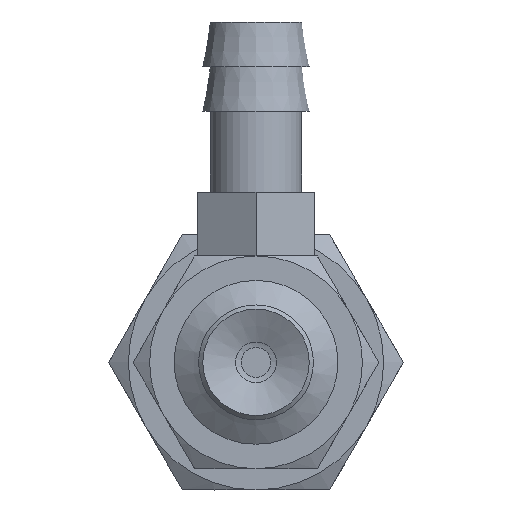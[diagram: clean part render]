
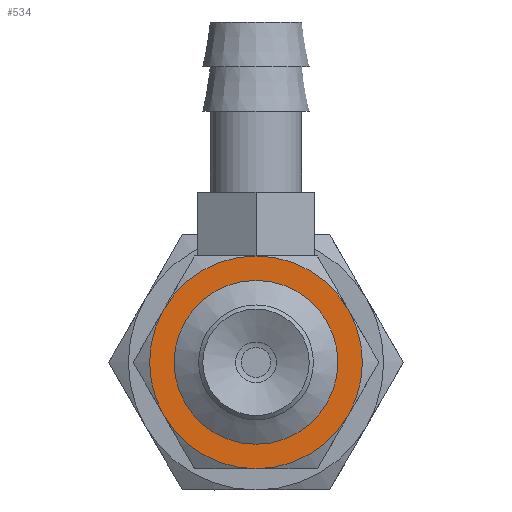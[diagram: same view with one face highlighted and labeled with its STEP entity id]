
A CAD part, front view. The second image highlights one B-rep face of the part: STEP entity #534.
In plain terms, the highlighted planar face has unit normal (0, -1, 0).
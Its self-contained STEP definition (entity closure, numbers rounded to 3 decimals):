
#534=ADVANCED_FACE('',(#776,#777),#778,.T.);
#776=FACE_BOUND('',#1108,.T.);
#777=FACE_OUTER_BOUND('',#1109,.T.);
#778=PLANE('',#1110);
#1108=EDGE_LOOP('',(#1835));
#1109=EDGE_LOOP('',(#1836,#1837,#1838,#1839,#1840,#1841));
#1110=AXIS2_PLACEMENT_3D('',#1842,#1843,#1844);
#1835=ORIENTED_EDGE('',*,*,#2307,.F.);
#1836=ORIENTED_EDGE('',*,*,#2333,.T.);
#1837=ORIENTED_EDGE('',*,*,#2334,.T.);
#1838=ORIENTED_EDGE('',*,*,#2255,.T.);
#1839=ORIENTED_EDGE('',*,*,#2262,.T.);
#1840=ORIENTED_EDGE('',*,*,#2264,.T.);
#1841=ORIENTED_EDGE('',*,*,#2277,.T.);
#1842=CARTESIAN_POINT('',(2.0,0.,0.0));
#1843=DIRECTION('',(0.0,-1.0,0.0));
#1844=DIRECTION('',(0.0,0.0,-1.0));
#2255=EDGE_CURVE('',#2547,#2558,#2560,.T.);
#2262=EDGE_CURVE('',#2558,#2570,#2572,.T.);
#2264=EDGE_CURVE('',#2570,#2573,#2576,.T.);
#2277=EDGE_CURVE('',#2573,#2591,#2597,.T.);
#2307=EDGE_CURVE('',#2649,#2649,#2650,.T.);
#2333=EDGE_CURVE('',#2591,#2692,#2694,.T.);
#2334=EDGE_CURVE('',#2692,#2547,#2695,.T.);
#2547=VERTEX_POINT('',#3235);
#2558=VERTEX_POINT('',#3256);
#2560=CIRCLE('',#3260,5.0);
#2570=VERTEX_POINT('',#3277);
#2572=CIRCLE('',#3281,5.0);
#2573=VERTEX_POINT('',#3282);
#2576=CIRCLE('',#3287,5.0);
#2591=VERTEX_POINT('',#3314);
#2597=CIRCLE('',#3327,5.0);
#2649=VERTEX_POINT('',#3458);
#2650=CIRCLE('',#3459,2.0);
#2692=VERTEX_POINT('',#3511);
#2694=CIRCLE('',#3515,5.0);
#2695=CIRCLE('',#3516,5.0);
#3235=CARTESIAN_POINT('',(4.33,0.,2.5));
#3256=CARTESIAN_POINT('',(0.0,0.,5.0));
#3260=AXIS2_PLACEMENT_3D('',#3767,#3768,#3769);
#3277=CARTESIAN_POINT('',(-4.33,0.,2.5));
#3281=AXIS2_PLACEMENT_3D('',#3774,#3775,#3776);
#3282=CARTESIAN_POINT('',(-4.33,0.,-2.5));
#3287=AXIS2_PLACEMENT_3D('',#3777,#3778,#3779);
#3314=CARTESIAN_POINT('',(0.0,0.,-5.0));
#3327=AXIS2_PLACEMENT_3D('',#3786,#3787,#3788);
#3458=CARTESIAN_POINT('',(0.0,0.,-2.0));
#3459=AXIS2_PLACEMENT_3D('',#3822,#3823,#3824);
#3511=CARTESIAN_POINT('',(4.33,0.,-2.5));
#3515=AXIS2_PLACEMENT_3D('',#3877,#3878,#3879);
#3516=AXIS2_PLACEMENT_3D('',#3880,#3881,#3882);
#3767=CARTESIAN_POINT('',(0.0,0.,0.0));
#3768=DIRECTION('',(0.0,-1.0,0.0));
#3769=DIRECTION('',(0.0,0.0,-1.0));
#3774=CARTESIAN_POINT('',(0.0,0.,0.0));
#3775=DIRECTION('',(0.0,-1.0,0.0));
#3776=DIRECTION('',(0.0,0.0,-1.0));
#3777=CARTESIAN_POINT('',(0.0,0.,0.0));
#3778=DIRECTION('',(0.0,-1.0,0.0));
#3779=DIRECTION('',(0.0,0.0,-1.0));
#3786=CARTESIAN_POINT('',(0.0,0.,0.0));
#3787=DIRECTION('',(0.0,-1.0,0.0));
#3788=DIRECTION('',(0.0,0.0,-1.0));
#3822=CARTESIAN_POINT('',(0.0,0.,0.0));
#3823=DIRECTION('',(0.0,-1.0,0.0));
#3824=DIRECTION('',(0.0,0.0,-1.0));
#3877=CARTESIAN_POINT('',(0.0,0.,0.0));
#3878=DIRECTION('',(0.0,-1.0,0.0));
#3879=DIRECTION('',(0.0,0.0,-1.0));
#3880=CARTESIAN_POINT('',(0.0,0.,0.0));
#3881=DIRECTION('',(0.0,-1.0,0.0));
#3882=DIRECTION('',(0.0,0.0,-1.0));
